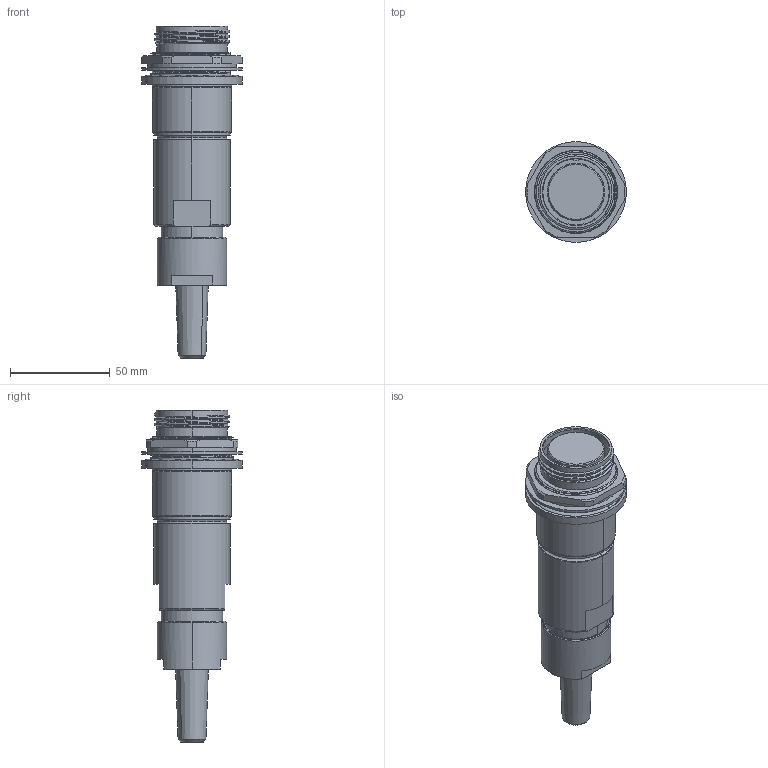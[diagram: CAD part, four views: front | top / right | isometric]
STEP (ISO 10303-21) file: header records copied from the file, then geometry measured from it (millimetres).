
FILE_DESCRIPTION (( 'STEP AP214' ), '1' );
FILE_NAME ('QLINK-RJTX-23XX-SXXX.STEP', '2025-09-30T22:07:11', ( '' ), ( '' ), 'SwSTEP 2.0', 'SolidWorks 2024', '' );
FILE_SCHEMA (( 'AUTOMOTIVE_DESIGN' ));
Length unit declared in the file: inch
Products named in the file (1): QLINK-RJTX-23XX-SXXX
Bounding box: 50.55 x 50.55 x 166.39 mm (x, y, z)
Volume: 146639.1 mm3; surface area: 33895.3 mm2
Topology: 2 solids, 2 shells, 222 faces, 572 edges, 368 vertices
Faces by surface type: cylinder 77, plane 45, cone 43, bspline 35, torus 22
Entity records: 17540 total; most frequent: CARTESIAN_POINT 12535, ORIENTED_EDGE 1144, DIRECTION 951, EDGE_CURVE 572, AXIS2_PLACEMENT_3D 397, VERTEX_POINT 368, EDGE_LOOP 246, ADVANCED_FACE 222
